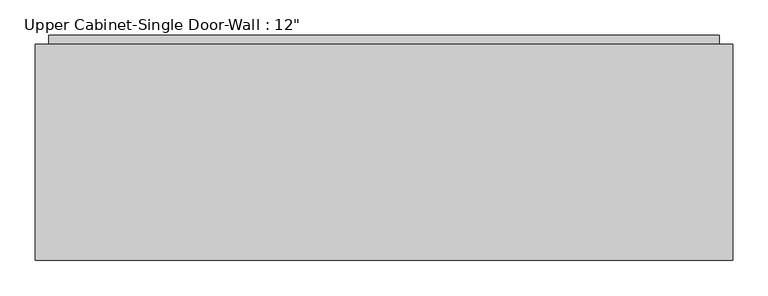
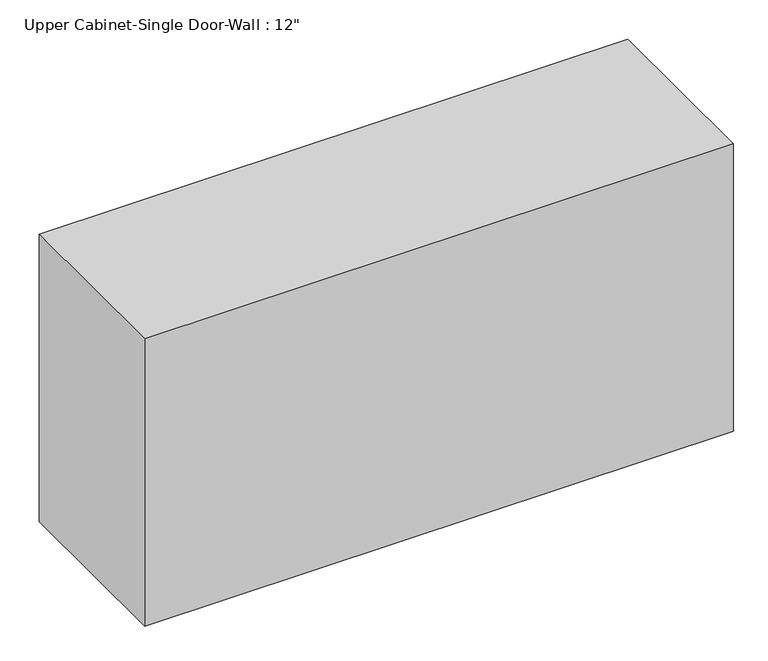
"""IFC4 building model written with IfcOpenShell, lengths in millimetres: furniture geometry."""

from ifc_helpers import new_model, si_unit, frame, origin, place, context, project, spatial, polyline, outline, extrude, faceted_brep, source, transform, mapped, element, save


def furniture_8603a8dd(model_context):
    return source(origin(), model_context, "Body", "SolidModel", [
        faceted_brep([(-725.8109398, 82.55, 2133.6), (-725.8109398, 82.55, 1625.6), (258.3711628, 82.55, 1625.6), (258.3711628, 82.55, 2133.6), (-725.8109398, 387.35, 2133.6), (258.3711628, 387.35, 2133.6), (258.3711628, 387.35, 1625.6), (-725.8109398, 387.35, 1625.6), (-706.7609398, 387.35, 2114.55), (-706.7609398, 387.35, 1644.65), (239.3211628, 387.35, 1644.65), (239.3211628, 387.35, 2114.55), (239.3211628, 101.6, 2114.55), (-706.7609398, 101.6, 2114.55), (239.3211628, 101.6, 1644.65), (-706.7609398, 101.6, 1644.65)], [[[0, 1, 2, 3]], [[4, 5, 6, 7], [8, 9, 10, 11]], [[1, 0, 4, 7]], [[2, 1, 7, 6]], [[3, 2, 6, 5]], [[0, 3, 5, 4]], [[8, 11, 12, 13]], [[11, 10, 14, 12]], [[10, 9, 15, 14]], [[9, 8, 13, 15]], [[13, 12, 14, 15]]]),
        extrude(outline(polyline([(-706.7609398, 400.05), (239.3211628, 400.05), (239.3211628, 368.3), (-706.7609398, 368.3), (-706.7609398, 400.05)])), frame((0.0, 0.0, 1644.65), z_axis=(0.0, 0.0, 1.0), x_axis=(1.0, 0.0, 0.0)), (0.0, 0.0, 1.0), 469.9),
    ])


if __name__ == "__main__":
    model = new_model("IFC4")
    model_context = context("Model", 3, world=origin())
    ifc_project = project(units=[si_unit("LENGTHUNIT", "METRE", prefix="MILLI")], contexts=[model_context])
    site = spatial("IfcSite", under=ifc_project)
    building = spatial("IfcBuilding", under=site)
    placement = place(None, origin())
    furniture_shape = furniture_8603a8dd(model_context)
    element("IfcFurniture", 1, ObjectType="Upper Cabinet-Single Door-Wall : 12\"", at=placement, inside=building, context=model_context, shape_type="MappedRepresentation", body=[
        mapped(furniture_shape, transform((0.0, 0.0, 0.0), x_axis=(1.0, 0.0, 0.0), y_axis=(0.0, 1.0, 0.0), z_axis=(0.0, 0.0, 1.0))),
    ])
    save(model, "model.ifc")
